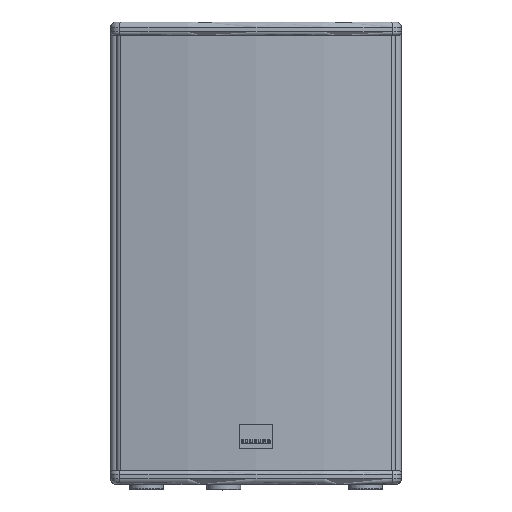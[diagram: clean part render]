
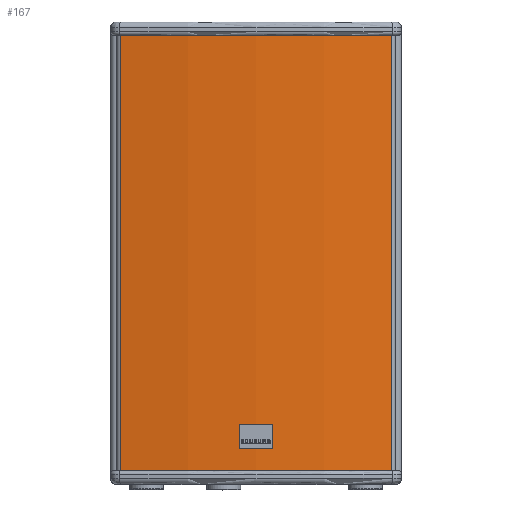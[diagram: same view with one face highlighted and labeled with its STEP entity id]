
A CAD part, top view. The second image highlights one B-rep face of the part: STEP entity #167.
In plain terms, the highlighted cylindrical face has radius 842.369 mm (diameter 1684.74 mm), a partial arc.
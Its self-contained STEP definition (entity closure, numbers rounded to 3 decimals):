
#129 = EDGE_LOOP ( 'NONE', ( #162, #158, #155, #151 ) ) ;
#149 = VERTEX_POINT ( 'NONE', #23713 ) ;
#151 = ORIENTED_EDGE ( 'NONE', *, *, #152, .F. ) ;
#152 = EDGE_CURVE ( 'NONE', #161, #149, #23766, .T. ) ;
#154 = EDGE_CURVE ( 'NONE', #149, #156, #23761, .T. ) ;
#155 = ORIENTED_EDGE ( 'NONE', *, *, #154, .F. ) ;
#156 = VERTEX_POINT ( 'NONE', #23756 ) ;
#157 = EDGE_CURVE ( 'NONE', #156, #159, #23755, .T. ) ;
#158 = ORIENTED_EDGE ( 'NONE', *, *, #157, .F. ) ;
#159 = VERTEX_POINT ( 'NONE', #23751 ) ;
#160 = EDGE_CURVE ( 'NONE', #161, #159, #23750, .T. ) ;
#161 = VERTEX_POINT ( 'NONE', #23745 ) ;
#162 = ORIENTED_EDGE ( 'NONE', *, *, #160, .T. ) ;
#167 = ADVANCED_FACE ( 'NONE', ( #23743 ), #23737, .T. ) ;
#23713 = CARTESIAN_POINT ( 'NONE',  ( -15.016, -92.743, 515. ) ) ;
#23737 = CYLINDRICAL_SURFACE ( 'NONE', #23796, 842.369 ) ;
#23743 = FACE_OUTER_BOUND ( 'NONE', #129, .T. ) ;
#23745 = CARTESIAN_POINT ( 'NONE',  ( -15.016, -92.743, 30. ) ) ;
#23746 = DIRECTION ( 'NONE',  ( 1., 0., 0. ) ) ;
#23747 = DIRECTION ( 'NONE',  ( 0., 0., 1. ) ) ;
#23748 = CARTESIAN_POINT ( 'NONE',  ( 136.064, 735.967, 30. ) ) ;
#23749 = AXIS2_PLACEMENT_3D ( 'NONE', #23748, #23747, #23746 ) ;
#23750 = CIRCLE ( 'NONE', #23749, 842.369 ) ;
#23751 = CARTESIAN_POINT ( 'NONE',  ( 286.827, -92.801, 30. ) ) ;
#23752 = DIRECTION ( 'NONE',  ( 0., 0., -1. ) ) ;
#23753 = VECTOR ( 'NONE', #23752, 1000. ) ;
#23754 = CARTESIAN_POINT ( 'NONE',  ( 286.827, -92.801, 30. ) ) ;
#23755 = LINE ( 'NONE', #23754, #23753 ) ;
#23756 = CARTESIAN_POINT ( 'NONE',  ( 286.827, -92.801, 515. ) ) ;
#23757 = DIRECTION ( 'NONE',  ( 1., 0., 0. ) ) ;
#23758 = DIRECTION ( 'NONE',  ( 0., 0., 1. ) ) ;
#23759 = CARTESIAN_POINT ( 'NONE',  ( 136.064, 735.967, 515. ) ) ;
#23760 = AXIS2_PLACEMENT_3D ( 'NONE', #23759, #23758, #23757 ) ;
#23761 = CIRCLE ( 'NONE', #23760, 842.369 ) ;
#23763 = DIRECTION ( 'NONE',  ( 0., 0., 1. ) ) ;
#23764 = VECTOR ( 'NONE', #23763, 1000. ) ;
#23765 = CARTESIAN_POINT ( 'NONE',  ( -15.016, -92.743, 30. ) ) ;
#23766 = LINE ( 'NONE', #23765, #23764 ) ;
#23793 = DIRECTION ( 'NONE',  ( 1., 0., 0. ) ) ;
#23794 = DIRECTION ( 'NONE',  ( 0., 0., 1. ) ) ;
#23795 = CARTESIAN_POINT ( 'NONE',  ( 136.064, 735.967, 30. ) ) ;
#23796 = AXIS2_PLACEMENT_3D ( 'NONE', #23795, #23794, #23793 ) ;
